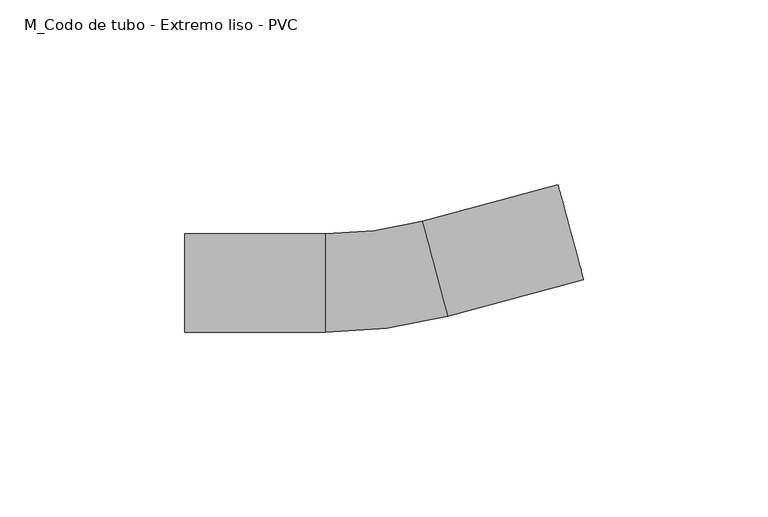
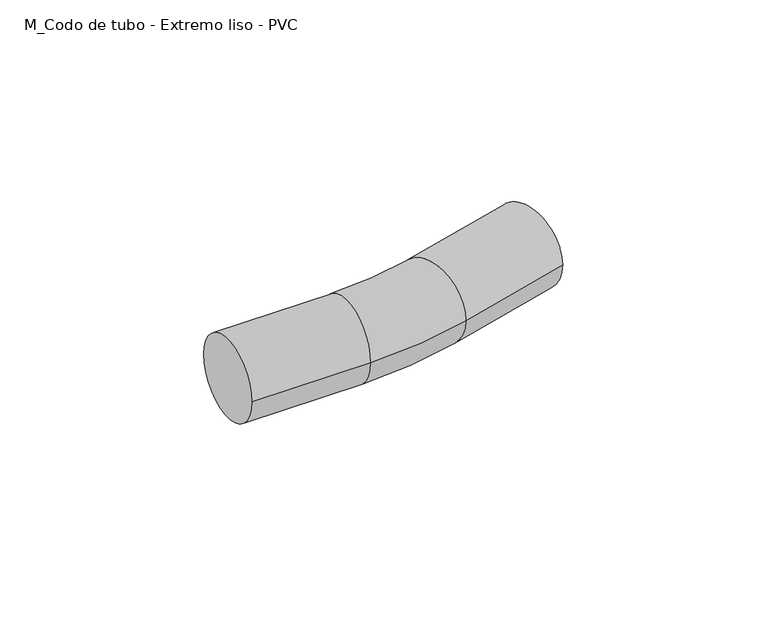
"""IFC4 building model written with IfcOpenShell, lengths in millimetres: cable carrier fitting geometry, M_Codo de tubo - Extremo liso - PVC : CODO ILUMINACION."""

from ifc_helpers import new_model, si_unit, point, frame, origin, place, context, project, spatial, circle_curve, ellipse_curve, trimmed, source, transform, mapped, element, save
from ifc_brep_helpers import plane_surface, cylinder_surface, revolved_surface, advanced_brep


def m_codo_de_tubo_extremo_liso_pvc_3c3806b2(model_context):
    return source(origin(), model_context, "Body", "AdvancedBrep", [
        advanced_brep(
        [(-53.2326323, -13.335, 0.0), (-53.2326323, 13.335, 0.0), (-15.1326323, -13.335, 0.0), (-15.1326323, 13.335, 0.0), (11.1411534, 16.8134911, 0.0), (18.0813987, -8.9376621, 0.0), (54.8687605, 0.976974, 0.0), (47.9285153, 26.7281272, 0.0)],
        [
            (0, 1, circle_curve(frame((-53.2326323, 0.0, 0.0), z_axis=(-1.0, 0.0, 0.0), x_axis=(0.0, 1.0, 0.0)), 13.335)),
            (1, 0, circle_curve(frame((-53.2326323, 0.0, 0.0), z_axis=(-1.0, 0.0, 0.0), x_axis=(0.0, 1.0, 0.0)), 13.335)),
            (0, 2),
            (2, 3, circle_curve(frame((-15.1326323, 0.0, 0.0), z_axis=(-1.0, 0.0, 0.0), x_axis=(0.0, 1.0, 0.0)), 13.335)),
            (3, 1),
            (3, 2, circle_curve(frame((-15.1326323, 0.0, 0.0), z_axis=(-1.0, 0.0, 0.0), x_axis=(0.0, 1.0, 0.0)), 13.335)),
            (4, 3, circle_curve(frame((-15.1326323, 114.3, 0.0), z_axis=(0.0, 0.0, -1.0), x_axis=(0.0, -1.0, 0.0)), 100.965)),
            (2, 5, circle_curve(frame((-15.1326323, 114.3, 0.0), z_axis=(0.0, 0.0, 1.0), x_axis=(0.0, -1.0, 0.0)), 127.635)),
            (5, 4, circle_curve(frame((14.6112761, 3.9379145, 0.0), z_axis=(-0.9655475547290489, -0.2602266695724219, 0.0), x_axis=(-0.2602266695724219, 0.9655475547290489, 0.0)), 13.335)),
            (4, 5, circle_curve(frame((14.6112761, 3.9379145, 0.0), z_axis=(-0.9655475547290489, -0.26022666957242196, 0.0), x_axis=(-0.26022666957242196, 0.9655475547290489, 0.0)), 13.335)),
            (6, 7, circle_curve(frame((51.3986379, 13.8525506, 0.0), z_axis=(0.9655475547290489, 0.26022666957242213, 0.0), x_axis=(-0.26022666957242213, 0.9655475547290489, 0.0)), 13.335)),
            (7, 6, circle_curve(frame((51.3986379, 13.8525506, 0.0), z_axis=(0.9655475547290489, 0.26022666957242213, 0.0), x_axis=(-0.26022666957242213, 0.9655475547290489, 0.0)), 13.335)),
            (5, 6),
            (7, 4),
        ],
        [
            plane_surface(frame((-53.2326323, 0.0, 0.0), z_axis=(-1.0, 0.0, 0.0), x_axis=(0.0, 0.0, 1.0))),
            cylinder_surface(frame((-53.2326323, 0.0, 0.0), z_axis=(-1.0, 0.0, 0.0), x_axis=(0.0, 1.0, 0.0)), 13.335),
            revolved_surface(trimmed(ellipse_curve(frame((-15.1326323, 0.0, 0.0), z_axis=(-1.0, 0.0, 0.0), x_axis=(0.0, 1.0, 0.0)), 13.335, 13.335), [point((-15.1326323, -13.335, 0.0))], [point((-15.1326323, 13.335, 0.0))], True, "CARTESIAN"), (-15.1326323, 114.3, 0.0), (0.0, 0.0, 1.0)),
            revolved_surface(trimmed(ellipse_curve(frame((-15.1326323, 0.0, 0.0), z_axis=(-1.0, 0.0, 0.0), x_axis=(0.0, 1.0, 0.0)), 13.335, 13.335), [point((-15.1326323, 13.335, 0.0))], [point((-15.1326323, -13.335, 0.0))], True, "CARTESIAN"), (-15.1326323, 114.3, 0.0), (0.0, 0.0, 1.0)),
            plane_surface(frame((51.3986379, 13.8525506, 0.0), z_axis=(0.9655475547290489, 0.26022666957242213, 0.0), x_axis=(0.0, 0.0, 1.0))),
            cylinder_surface(frame((14.6112761, 3.9379145, 0.0), z_axis=(-0.9655475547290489, -0.26022666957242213, 0.0), x_axis=(-0.26022666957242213, 0.9655475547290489, 0.0)), 13.335),
        ],
        [
            (0, [[1, 2]]),
            (1, [[-1, 3, 4, 5]]),
            (1, [[-2, -5, 6, -3]]),
            (2, [[7, -4, 8, 9]]),
            (3, [[-8, -6, -7, 10]]),
            (4, [[11, 12]]),
            (5, [[-9, 13, -12, 14]]),
            (5, [[-10, -14, -11, -13]]),
        ],
    ),
    ])


if __name__ == "__main__":
    model = new_model("IFC4")
    model_context = context("Model", 3, world=origin())
    ifc_project = project(units=[si_unit("LENGTHUNIT", "METRE", prefix="MILLI")], contexts=[model_context])
    site = spatial("IfcSite", under=ifc_project)
    building = spatial("IfcBuilding", under=site)
    placement = place(None, origin())
    m_codo_de_tubo_extremo_liso_pvc_shape = m_codo_de_tubo_extremo_liso_pvc_3c3806b2(model_context)
    element("IfcCableCarrierFitting", 1, ObjectType="M_Codo de tubo - Extremo liso - PVC : CODO ILUMINACION", at=placement, inside=building, context=model_context, shape_type="MappedRepresentation", body=[
        mapped(m_codo_de_tubo_extremo_liso_pvc_shape, transform((0.0, 0.0, 0.0), x_axis=(1.0, 0.0, 0.0), y_axis=(0.0, 1.0, 0.0), z_axis=(0.0, 0.0, 1.0))),
    ])
    save(model, "model.ifc")
